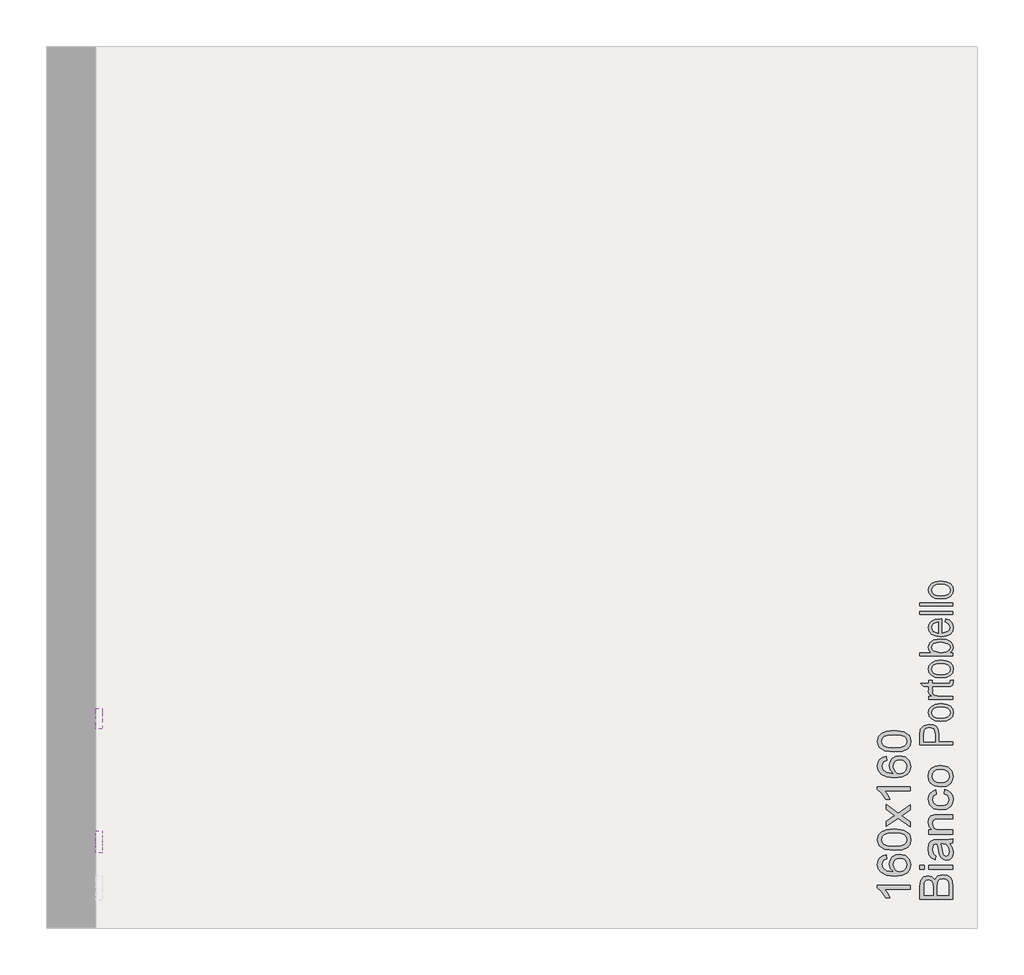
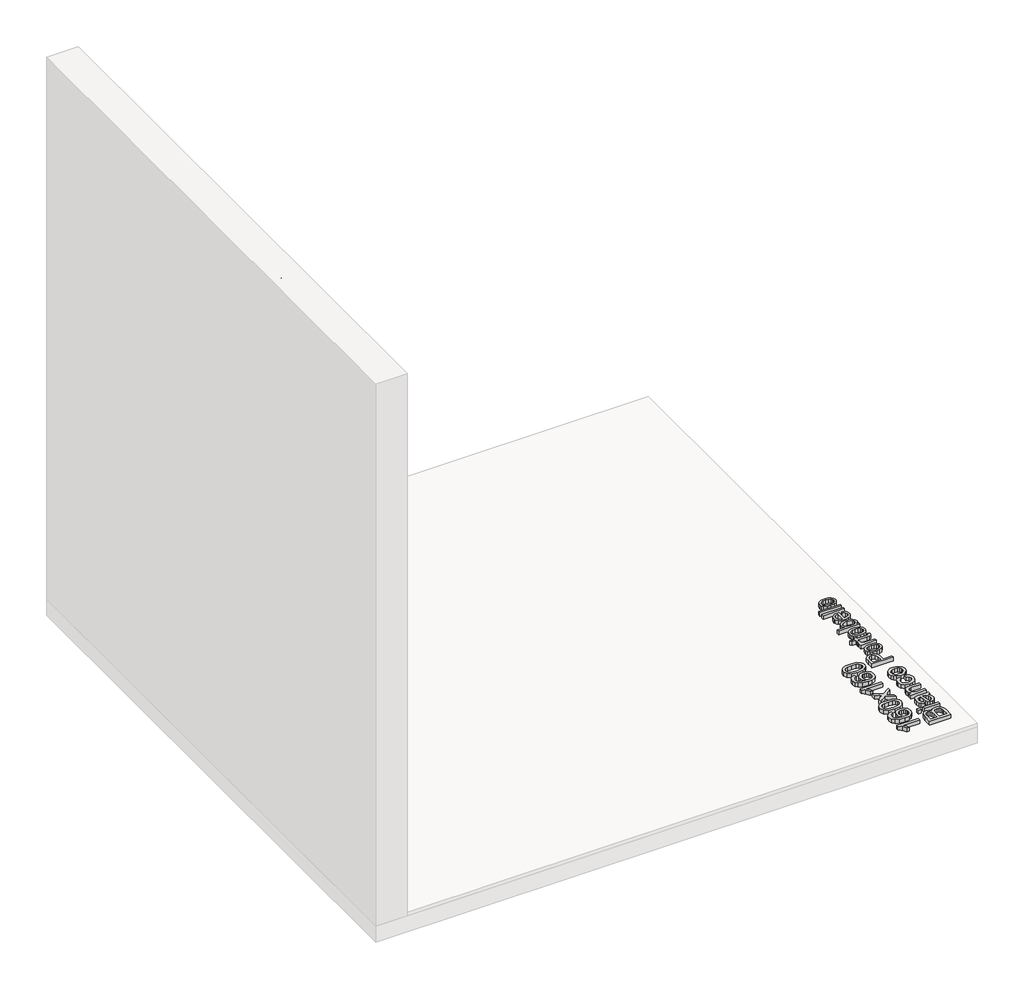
# One storey, part 11 of 14: 5 proxies.
"""IFC4 building model written with IfcOpenShell, lengths in millimetres."""

from ifc_helpers import new_model, si_unit, frame, origin, origin_with_axes, place, context, project, spatial, polyline, outline, extrude, element, save

model = new_model("IFC4")

# Units and contexts
model_context = context("Model", 3, world=origin())
ifc_project = project(units=[si_unit("LENGTHUNIT", "METRE", prefix="MILLI")], contexts=[model_context])

# Site, building, storey
site = spatial("IfcSite", under=ifc_project)
building = spatial("IfcBuilding", under=site)
storey = spatial("IfcBuildingStorey", under=building, Name="PORTOBELLO - SHOWROOM", Elevation=0.0)

# Proxies
placement = place(None, origin())
element("IfcBuildingElementProxy", 1, Name="10mm Arial", ObjectType="10mm Arial", at=placement, inside=storey, context=model_context, shape_type="SweptSolid", body=[
    extrude(outline(polyline([(-10553.2336751, 22623.880666), (-10653.6899853, 22623.880666), (-10653.6899853, 22662.2139699), (-10650.7346666, 22680.9882144), (-10641.6479813, 22692.0737252), (-10628.7966369, 22696.0836389), (-10617.0612013, 22692.7113873), (-10608.1707198, 22682.521056), (-10598.8019916, 22694.8941538), (-10583.1792695, 22699.2228986), (-10569.6780003, 22696.2675799), (-10560.0640175, 22688.9467282), (-10554.9627205, 22678.0206329), (-10553.2336751, 22661.9196643), (-10553.2336751, 22623.880666)]), holes=[polyline([(-10612.8796093, 22636.4377048), (-10612.8796093, 22659.3690158), (-10613.9587298, 22672.7599204), (-10618.6063057, 22680.8165361), (-10626.7855487, 22683.5266001), (-10634.9770545, 22681.0004771), (-10639.8208341, 22673.7654645), (-10641.1329465, 22657.6277077), (-10641.1329465, 22636.4377048), (-10612.8796093, 22636.4377048)]), polyline([(-10565.7907139, 22636.4377048), (-10565.7907139, 22662.1894444), (-10566.2812232, 22671.5091216), (-10569.0158127, 22679.3940591), (-10574.5953563, 22684.6179834), (-10583.0566422, 22686.6658598), (-10592.8177778, 22684.2623641), (-10598.6425761, 22676.4755286), (-10600.3225705, 22660.9631711), (-10600.3225705, 22636.4377048), (-10565.7907139, 22636.4377048)])]), origin_with_axes(), (0.0, 0.0, 1.0), 20.0),
    extrude(outline(polyline([(-10641.1329465, 22714.9191971), (-10653.6899853, 22714.9191971), (-10653.6899853, 22727.4762358), (-10641.1329465, 22727.4762358), (-10641.1329465, 22714.9191971)])), origin_with_axes(), (0.0, 0.0, 1.0), 20.0),
    extrude(outline(polyline([(-10553.2336751, 22714.9191971), (-10627.0062779, 22714.9191971), (-10627.0062779, 22727.4762358), (-10553.2336751, 22727.4762358), (-10553.2336751, 22714.9191971)])), origin_with_axes(), (0.0, 0.0, 1.0), 20.0),
    extrude(outline(polyline([(-10562.6514542, 22793.4006894), (-10554.1411174, 22781.2237953), (-10551.6640453, 22767.771577), (-10553.1539674, 22757.2777431), (-10557.6237336, 22749.5368928), (-10564.4111564, 22744.7636239), (-10572.8540482, 22743.1725343), (-10582.7868621, 22745.57603), (-10589.9973492, 22751.8913376), (-10594.1176275, 22760.6837173), (-10596.0060884, 22771.5484989), (-10600.3225705, 22793.327113), (-10603.1184737, 22793.4006894), (-10612.3891, 22789.9425986), (-10616.018869, 22776.0611847), (-10613.6031105, 22763.3569931), (-10605.0314601, 22757.2992029), (-10606.6010899, 22744.7421641), (-10618.8638231, 22750.1745549), (-10626.0497847, 22761.1129129), (-10628.5759078, 22777.6798654), (-10626.3440903, 22792.8979173), (-10620.7400213, 22801.4940933), (-10612.2174217, 22805.3445915), (-10601.2300128, 22805.9577281), (-10585.6072907, 22805.9577281), (-10563.7918884, 22806.5953903), (-10553.2336751, 22809.0969878), (-10553.2336751, 22796.5399491), (-10562.6514542, 22793.4006894)]), holes=[polyline([(-10587.7655318, 22793.4006894), (-10583.9150335, 22773.1426542), (-10581.8794198, 22762.3391862), (-10578.5684819, 22757.4463557), (-10573.736965, 22755.7295731), (-10566.9434108, 22759.4697067), (-10564.2210841, 22770.4448529), (-10567.2254537, 22783.1490444), (-10574.4972545, 22791.3405502), (-10584.2093391, 22793.327113), (-10587.7655318, 22793.4006894)])]), origin_with_axes(), (0.0, 0.0, 1.0), 20.0),
    extrude(outline(polyline([(-10553.2336751, 22823.2236564), (-10627.0062779, 22823.2236564), (-10627.0062779, 22835.7806952), (-10616.705582, 22835.7806952), (-10625.6083263, 22845.3824153), (-10628.5759078, 22858.491277), (-10626.1846748, 22870.34934), (-10619.9061554, 22878.4427439), (-10610.6723173, 22882.207403), (-10598.5322115, 22882.8695906), (-10553.2336751, 22882.8695906), (-10553.2336751, 22870.3125518), (-10596.8399543, 22870.3125518), (-10607.9499906, 22868.8655493), (-10613.8238397, 22863.7519896), (-10616.018869, 22855.1312882), (-10611.0892502, 22841.5073916), (-10603.9462082, 22837.2123693), (-10592.3763194, 22835.7806952), (-10553.2336751, 22835.7806952), (-10553.2336751, 22823.2236564)])), origin_with_axes(), (0.0, 0.0, 1.0), 20.0),
    extrude(outline(polyline([(-10579.9173825, 22947.2244143), (-10578.3477527, 22959.7814531), (-10567.1794684, 22956.2804427), (-10558.7396423, 22949.7014864), (-10553.4329446, 22940.663852), (-10551.6640453, 22929.7868077), (-10554.1319203, 22916.4296256), (-10561.5355455, 22905.9848426), (-10573.5499583, 22899.2434051), (-10589.8501964, 22896.9962592), (-10610.7091055, 22900.8344947), (-10624.1122729, 22912.5331421), (-10628.5759078, 22929.6151294), (-10627.0430661, 22940.2254593), (-10622.4445412, 22948.708205), (-10615.0255876, 22954.7935863), (-10605.0314601, 22958.2118232), (-10603.4618302, 22945.6547844), (-10612.8673466, 22939.8299862), (-10616.018869, 22929.7132313), (-10614.4676332, 22921.5983676), (-10609.813926, 22915.157367), (-10601.8063612, 22910.9543152), (-10590.1935529, 22909.553298), (-10578.4243948, 22910.9236584), (-10570.3892388, 22915.0347397), (-10565.7631228, 22921.3592443), (-10564.2210841, 22929.3698748), (-10568.0715823, 22941.2034123), (-10579.9173825, 22947.2244143)])), origin_with_axes(), (0.0, 0.0, 1.0), 20.0),
    extrude(outline(polyline([(-10590.1199765, 22967.6296023), (-10607.907071, 22970.3457977), (-10620.4089275, 22978.4943839), (-10626.5341627, 22988.5620878), (-10628.5759078, 23000.6163545), (-10626.0896386, 23013.8079897), (-10618.6308311, 23024.3447432), (-10606.7880966, 23031.2517277), (-10591.1500461, 23033.5540558), (-10568.8073463, 23029.4828284), (-10556.1644684, 23017.6247654), (-10551.6640453, 23000.6163545), (-10554.1411174, 22987.2653038), (-10561.5723337, 22976.740813), (-10573.6633886, 22969.907405), (-10590.1199765, 22967.6296023)]), holes=[polyline([(-10590.144502, 22980.1866411), (-10578.780014, 22981.6397749), (-10570.6835444, 22985.9991766), (-10565.8366992, 22992.5597388), (-10564.2210841, 23000.6163545), (-10565.8458962, 23008.636182), (-10570.7203326, 23015.1844815), (-10578.9241011, 23019.5438832), (-10590.5369095, 23020.9970171), (-10601.5703036, 23019.5346861), (-10609.5564086, 23015.1476933), (-10614.4032539, 23008.5901968), (-10616.018869, 23000.6163545), (-10614.4093853, 22992.5597388), (-10609.5809341, 22985.9991766), (-10601.5028586, 22981.6397749), (-10590.144502, 22980.1866411)])]), origin_with_axes(), (0.0, 0.0, 1.0), 20.0),
])
element("IfcBuildingElementProxy", 2, Name="10mm Arial", ObjectType="10mm Arial", at=placement, inside=storey, context=model_context, shape_type="SweptSolid", body=[
    extrude(outline(polyline([(-10683.2336751, 22666.2606718), (-10683.2336751, 22653.7036331), (-10761.5189637, 22653.7036331), (-10753.0454151, 22641.8087819), (-10746.705582, 22628.5895555), (-10758.5759078, 22628.5895555), (-10770.3236061, 22646.995918), (-10783.6899853, 22658.1672679), (-10783.6899853, 22666.2606718), (-10683.2336751, 22666.2606718)])), origin_with_axes(), (0.0, 0.0, 1.0), 20.0),
    extrude(outline(polyline([(-10757.0062779, 22760.4384626), (-10755.4366481, 22747.8814238), (-10765.9090222, 22743.1234834), (-10771.1329465, 22730.5419191), (-10768.0917887, 22719.2111537), (-10756.6751841, 22710.6395032), (-10734.2956961, 22707.0710478), (-10744.3143491, 22718.1442959), (-10747.5884988, 22731.8662943), (-10745.35055, 22743.4668399), (-10738.6367036, 22753.20345), (-10728.3789273, 22759.8069318), (-10715.5091888, 22762.0080924), (-10698.1819469, 22757.8632886), (-10685.9192137, 22746.4589468), (-10681.6640453, 22730.0023589), (-10684.4844739, 22715.7561286), (-10692.9457598, 22704.4100347), (-10707.8817688, 22696.9880155), (-10730.1263668, 22694.5140091), (-10755.1362111, 22697.2608613), (-10772.2365925, 22705.501418), (-10780.8266371, 22716.7524757), (-10783.6899853, 22731.326734), (-10781.9180203, 22742.3447998), (-10776.6021255, 22751.1678363), (-10768.1592337, 22757.3482538), (-10757.0062779, 22760.4384626)]), holes=[polyline([(-10715.7053926, 22707.0710478), (-10704.8283483, 22709.9773156), (-10696.9311481, 22717.7028375), (-10694.2210841, 22729.0213402), (-10695.625167, 22737.3078822), (-10699.8374159, 22743.8224592), (-10706.4592918, 22748.043905), (-10715.0922559, 22749.4510537), (-10723.3787979, 22748.0622991), (-10729.6971711, 22743.8960356), (-10733.6978878, 22737.271094), (-10735.0314601, 22728.5063054), (-10729.6971711, 22713.312779), (-10723.532082, 22708.6314806), (-10715.7053926, 22707.0710478)])]), origin_with_axes(), (0.0, 0.0, 1.0), 20.0),
    extrude(outline(polyline([(-10732.6524898, 22772.9955014), (-10761.5557519, 22776.6865841), (-10778.2208063, 22787.6494675), (-10783.6899853, 22805.9577281), (-10780.4526237, 22820.623957), (-10771.1206838, 22830.7529746), (-10756.2582512, 22836.6390865), (-10732.6524898, 22838.9199549), (-10703.8718551, 22835.2656604), (-10687.1700125, 22824.3395652), (-10683.0405371, 22816.1082055), (-10681.6640453, 22805.9577281), (-10684.0552783, 22792.91018), (-10691.2289772, 22783.0018916), (-10708.218994, 22775.4970989), (-10732.6524898, 22772.9955014)]), holes=[polyline([(-10732.6770153, 22785.5525401), (-10712.9248178, 22787.0240681), (-10701.4928848, 22791.4386521), (-10696.0390343, 22798.011477), (-10694.2210841, 22805.9577281), (-10696.0451656, 22813.9039792), (-10701.5174103, 22820.4768042), (-10712.9554747, 22824.8913882), (-10732.6770153, 22826.3629161), (-10751.9846887, 22824.9404391), (-10763.5055265, 22820.6730079), (-10769.2260915, 22814.1124457), (-10771.1329465, 22805.8105753), (-10769.4529521, 22797.9501634), (-10764.4129687, 22791.6348558), (-10752.174761, 22787.0731191), (-10732.6770153, 22785.5525401)])]), origin_with_axes(), (0.0, 0.0, 1.0), 20.0),
    extrude(outline(polyline([(-10683.2336751, 22845.1984743), (-10720.3407057, 22872.0293345), (-10757.0062779, 22846.7681041), (-10757.0062779, 22861.8267405), (-10739.3234167, 22874.0158972), (-10731.0092836, 22879.7303309), (-10737.8273632, 22884.6844751), (-10757.0062779, 22898.5658891), (-10757.0062779, 22913.6735763), (-10720.3161803, 22887.1370217), (-10683.2336751, 22912.6925577), (-10683.2336751, 22897.6093959), (-10705.5518495, 22882.207403), (-10709.6476024, 22879.4114998), (-10683.2336751, 22860.3061616), (-10683.2336751, 22845.1984743)])), origin_with_axes(), (0.0, 0.0, 1.0), 20.0),
    extrude(outline(polyline([(-10683.2336751, 22967.6296023), (-10683.2336751, 22955.0725635), (-10761.5189637, 22955.0725635), (-10753.0454151, 22943.1777123), (-10746.705582, 22929.958486), (-10758.5759078, 22929.958486), (-10770.3236061, 22948.3648485), (-10783.6899853, 22959.5361984), (-10783.6899853, 22967.6296023), (-10683.2336751, 22967.6296023)])), origin_with_axes(), (0.0, 0.0, 1.0), 20.0),
    extrude(outline(polyline([(-10757.0062779, 23061.807393), (-10755.4366481, 23049.2503543), (-10765.9090222, 23044.4924138), (-10771.1329465, 23031.9108496), (-10768.0917887, 23020.5800841), (-10756.6751841, 23012.0084336), (-10734.2956961, 23008.4399783), (-10744.3143491, 23019.5132263), (-10747.5884988, 23033.2352248), (-10745.35055, 23044.8357703), (-10738.6367036, 23054.5723805), (-10728.3789273, 23061.1758623), (-10715.5091888, 23063.3770229), (-10698.1819469, 23059.2322191), (-10685.9192137, 23047.8278772), (-10681.6640453, 23031.3712893), (-10684.4844739, 23017.1250591), (-10692.9457598, 23005.7789652), (-10707.8817688, 22998.3569459), (-10730.1263668, 22995.8829395), (-10755.1362111, 22998.6297917), (-10772.2365925, 23006.8703484), (-10780.8266371, 23018.1214061), (-10783.6899853, 23032.6956645), (-10781.9180203, 23043.7137303), (-10776.6021255, 23052.5367668), (-10768.1592337, 23058.7171843), (-10757.0062779, 23061.807393)]), holes=[polyline([(-10715.7053926, 23008.4399783), (-10704.8283483, 23011.346246), (-10696.9311481, 23019.0717679), (-10694.2210841, 23030.3902707), (-10695.625167, 23038.6768126), (-10699.8374159, 23045.1913896), (-10706.4592918, 23049.4128355), (-10715.0922559, 23050.8199841), (-10723.3787979, 23049.4312296), (-10729.6971711, 23045.264966), (-10733.6978878, 23038.6400244), (-10735.0314601, 23029.8752359), (-10729.6971711, 23014.6817095), (-10723.532082, 23010.0004111), (-10715.7053926, 23008.4399783)])]), origin_with_axes(), (0.0, 0.0, 1.0), 20.0),
    extrude(outline(polyline([(-10732.6524898, 23074.3644318), (-10761.5557519, 23078.0555145), (-10778.2208063, 23089.018398), (-10783.6899853, 23107.3266586), (-10780.4526237, 23121.9928875), (-10771.1206838, 23132.1219051), (-10756.2582512, 23138.008017), (-10732.6524898, 23140.2888854), (-10703.8718551, 23136.6345909), (-10687.1700125, 23125.7084956), (-10683.0405371, 23117.477136), (-10681.6640453, 23107.3266586), (-10684.0552783, 23094.2791105), (-10691.2289772, 23084.3708221), (-10708.218994, 23076.8660294), (-10732.6524898, 23074.3644318)]), holes=[polyline([(-10732.6770153, 23086.9214706), (-10712.9248178, 23088.3929986), (-10701.4928848, 23092.8075825), (-10696.0390343, 23099.3804075), (-10694.2210841, 23107.3266586), (-10696.0451656, 23115.2729097), (-10701.5174103, 23121.8457347), (-10712.9554747, 23126.2603186), (-10732.6770153, 23127.7318466), (-10751.9846887, 23126.3093695), (-10763.5055265, 23122.0419384), (-10769.2260915, 23115.4813761), (-10771.1329465, 23107.1795058), (-10769.4529521, 23099.3190938), (-10764.4129687, 23093.0037862), (-10752.174761, 23088.4420495), (-10732.6770153, 23086.9214706)])]), origin_with_axes(), (0.0, 0.0, 1.0), 20.0),
])
element("IfcBuildingElementProxy", 3, Name="10mm Arial", ObjectType="10mm Arial", at=placement, inside=storey, context=model_context, shape_type="SweptSolid", body=[
    extrude(outline(polyline([(22680.1695981, 2464.9621931), (22667.6125593, 2463.3925633), (22662.8546188, 2473.8649374), (22650.2730546, 2479.0888617), (22638.9422891, 2476.0477039), (22630.3706386, 2464.6310993), (22626.8021833, 2442.2516113), (22637.8754313, 2452.2702643), (22651.5974298, 2455.544414), (22663.1979753, 2453.3064652), (22672.9345855, 2446.5926188), (22679.5380673, 2436.3348425), (22681.7392279, 2423.4651041), (22677.5944241, 2406.1378621), (22666.1900822, 2393.8751289), (22649.7334943, 2389.6199605), (22635.4872641, 2392.4403891), (22624.1411702, 2400.901675), (22616.7191509, 2415.837684), (22614.2451445, 2438.082282), (22616.9919968, 2463.0921263), (22625.2325534, 2480.1925077), (22636.4836111, 2488.7825523), (22651.0578695, 2491.6459005), (22662.0759353, 2489.8739355), (22670.8989718, 2484.5580407), (22677.0793893, 2476.1151489), (22680.1695981, 2464.9621931)]), holes=[polyline([(22626.8021833, 2423.6613078), (22629.7084511, 2412.7842635), (22637.433973, 2404.8870633), (22648.7524757, 2402.1769993), (22657.0390176, 2403.5810822), (22663.5535946, 2407.7933311), (22667.7750405, 2414.415207), (22669.1821891, 2423.0481711), (22667.7934346, 2431.3347131), (22663.627171, 2437.6530863), (22657.0022294, 2441.653803), (22648.2374409, 2442.9873753), (22633.0439145, 2437.6530863), (22628.3626161, 2431.4879972), (22626.8021833, 2423.6613078)])]), frame((-13177.661959, 0.0, 0.0), z_axis=(1.0, 0.0, 0.0), x_axis=(0.0, 1.0, 0.0)), (0.0, 0.0, 1.0), 20.0),
    extrude(outline(polyline([(22692.7266368, 2440.608405), (22696.4177195, 2469.5116671), (22707.380603, 2486.1767215), (22725.6888636, 2491.6459005), (22740.3550925, 2488.4085389), (22750.4841101, 2479.076599), (22756.370222, 2464.2141664), (22758.6510904, 2440.608405), (22754.9967959, 2411.8277703), (22744.0707006, 2395.1259277), (22735.839341, 2390.9964523), (22725.6888636, 2389.6199605), (22712.6413155, 2392.0111935), (22702.7330271, 2399.1848924), (22695.2282344, 2416.1749092), (22692.7266368, 2440.608405)]), holes=[polyline([(22705.2836756, 2440.6329305), (22706.7552036, 2420.880733), (22711.1697875, 2409.4488), (22717.7426125, 2403.9949495), (22725.6888636, 2402.1769993), (22733.6351147, 2404.0010808), (22740.2079397, 2409.4733255), (22744.6225236, 2420.9113899), (22746.0940516, 2440.6329305), (22744.6715745, 2459.9406039), (22740.4041434, 2471.4614417), (22733.8435812, 2477.1820067), (22725.5417108, 2479.0888617), (22717.6812988, 2477.4088673), (22711.3659912, 2472.3688839), (22706.8042545, 2460.1306762), (22705.2836756, 2440.6329305)])]), frame((-13177.661959, 0.0, 0.0), z_axis=(1.0, 0.0, 0.0), x_axis=(0.0, 1.0, 0.0)), (0.0, 0.0, 1.0), 20.0),
    extrude(outline(polyline([(22764.9296097, 2391.1895903), (22791.7604699, 2428.2966209), (22766.4992396, 2464.9621931), (22781.5578759, 2464.9621931), (22793.7470327, 2447.2793319), (22799.4614664, 2438.9651988), (22804.4156106, 2445.7832784), (22818.2970245, 2464.9621931), (22833.4047118, 2464.9621931), (22806.8681572, 2428.2720955), (22832.4236931, 2391.1895903), (22817.3405313, 2391.1895903), (22801.9385385, 2413.5077647), (22799.1426353, 2417.6035176), (22780.037297, 2391.1895903), (22764.9296097, 2391.1895903)])), frame((-13177.661959, 0.0, 0.0), z_axis=(1.0, 0.0, 0.0), x_axis=(0.0, 1.0, 0.0)), (0.0, 0.0, 1.0), 20.0),
    extrude(outline(polyline([(22904.626666, 2464.9621931), (22892.0696273, 2463.3925633), (22887.3116868, 2473.8649374), (22874.7301226, 2479.0888617), (22863.3993571, 2476.0477039), (22854.8277066, 2464.6310993), (22851.2592513, 2442.2516113), (22862.3324993, 2452.2702643), (22876.0544978, 2455.544414), (22887.6550433, 2453.3064652), (22897.3916535, 2446.5926188), (22903.9951353, 2436.3348425), (22906.1962959, 2423.4651041), (22902.0514921, 2406.1378621), (22890.6471502, 2393.8751289), (22874.1905623, 2389.6199605), (22859.944332, 2392.4403891), (22848.5982382, 2400.901675), (22841.1762189, 2415.837684), (22838.7022125, 2438.082282), (22841.4490647, 2463.0921263), (22849.6896214, 2480.1925077), (22860.9406791, 2488.7825523), (22875.5149375, 2491.6459005), (22886.5330033, 2489.8739355), (22895.3560398, 2484.5580407), (22901.5364573, 2476.1151489), (22904.626666, 2464.9621931)]), holes=[polyline([(22851.2592513, 2423.6613078), (22854.165519, 2412.7842635), (22861.8910409, 2404.8870633), (22873.2095437, 2402.1769993), (22881.4960856, 2403.5810822), (22888.0106626, 2407.7933311), (22892.2321085, 2414.415207), (22893.6392571, 2423.0481711), (22892.2505026, 2431.3347131), (22888.084239, 2437.6530863), (22881.4592974, 2441.653803), (22872.6945089, 2442.9873753), (22857.5009825, 2437.6530863), (22852.8196841, 2431.4879972), (22851.2592513, 2423.6613078)])]), frame((-13177.661959, 0.0, 0.0), z_axis=(1.0, 0.0, 0.0), x_axis=(0.0, 1.0, 0.0)), (0.0, 0.0, 1.0), 20.0),
    extrude(outline(polyline([(22917.1837048, 2440.608405), (22920.8747875, 2469.5116671), (22931.837671, 2486.1767215), (22950.1459316, 2491.6459005), (22964.8121605, 2488.4085389), (22974.9411781, 2479.076599), (22980.82729, 2464.2141664), (22983.1081584, 2440.608405), (22979.4538639, 2411.8277703), (22968.5277686, 2395.1259277), (22960.296409, 2390.9964523), (22950.1459316, 2389.6199605), (22937.0983835, 2392.0111935), (22927.1900951, 2399.1848924), (22919.6853024, 2416.1749092), (22917.1837048, 2440.608405)]), holes=[polyline([(22929.7407436, 2440.6329305), (22931.2122716, 2420.880733), (22935.6268555, 2409.4488), (22942.1996805, 2403.9949495), (22950.1459316, 2402.1769993), (22958.0921827, 2404.0010808), (22964.6650077, 2409.4733255), (22969.0795916, 2420.9113899), (22970.5511196, 2440.6329305), (22969.1286425, 2459.9406039), (22964.8612114, 2471.4614417), (22958.3006491, 2477.1820067), (22949.9987788, 2479.0888617), (22942.1383668, 2477.4088673), (22935.8230592, 2472.3688839), (22931.2613225, 2460.1306762), (22929.7407436, 2440.6329305)])]), frame((-13177.661959, 0.0, 0.0), z_axis=(1.0, 0.0, 0.0), x_axis=(0.0, 1.0, 0.0)), (0.0, 0.0, 1.0), 20.0),
])
element("IfcBuildingElementProxy", 4, Name="10mm Arial Narrow", ObjectType="10mm Arial Narrow", at=placement, inside=storey, context=model_context, shape_type="SweptSolid", body=[
    extrude(outline(polyline([(-10553.2336751, 23096.1945656), (-10653.9522789, 23096.1945656), (-10653.9522789, 23127.4914503), (-10652.0739582, 23143.7871518), (-10642.593515, 23155.2601379), (-10625.5744062, 23159.5498164), (-10613.4985806, 23157.763508), (-10603.8721869, 23152.4045828), (-10597.5709284, 23142.6607939), (-10595.470509, 23127.7198947), (-10595.470509, 23105.9415273), (-10553.2336751, 23105.9415273), (-10553.2336751, 23096.1945656)]), holes=[polyline([(-10606.8419642, 23105.9415273), (-10606.8419642, 23128.9128822), (-10611.3727784, 23144.7770776), (-10625.0413692, 23149.8028547), (-10635.2071456, 23147.3280402), (-10641.0070954, 23141.3504114), (-10642.5808236, 23128.6844378), (-10642.5808236, 23105.9415273), (-10606.8419642, 23105.9415273)])]), origin_with_axes(), (0.0, 0.0, 1.0), 20.0),
    extrude(outline(polyline([(-10589.7847813, 23167.6722844), (-10606.3755569, 23169.6267533), (-10618.3276417, 23175.4901599), (-10625.5521963, 23184.3487266), (-10627.9603811, 23195.2886758), (-10625.5521963, 23206.1017113), (-10618.3276417, 23214.9856608), (-10606.5659272, 23220.9252155), (-10590.5462627, 23222.9050671), (-10573.3843761, 23220.9601168), (-10561.241921, 23215.1252657), (-10554.0173664, 23206.2762175), (-10551.6091815, 23195.2886758), (-10554.0237121, 23184.4280476), (-10561.2673037, 23175.5536167), (-10573.2257342, 23169.6426175), (-10589.7847813, 23167.6722844)]), holes=[polyline([(-10589.8101641, 23177.4192461), (-10577.2584127, 23178.7232829), (-10568.3871546, 23182.6353935), (-10563.113896, 23188.4765903), (-10561.3561432, 23195.5678856), (-10563.1297602, 23202.2879588), (-10568.4506114, 23207.9800321), (-10577.3377336, 23211.8635871), (-10589.8101641, 23213.1581055), (-10602.3238414, 23211.8540686), (-10611.1824081, 23207.941958), (-10616.4556666, 23202.1007613), (-10618.2134195, 23195.0094659), (-10616.4461481, 23188.2418002), (-10611.144334, 23182.5592454), (-10602.2762488, 23178.7042459), (-10589.8101641, 23177.4192461)])]), origin_with_axes(), (0.0, 0.0, 1.0), 20.0),
    extrude(outline(polyline([(-10561.3561432, 23294.3827859), (-10551.6091815, 23296.0072795), (-10551.6091815, 23288.6462929), (-10553.728638, 23280.3715285), (-10559.5285879, 23276.0564674), (-10574.1744131, 23274.8888626), (-10616.5889259, 23274.8888626), (-10616.5889259, 23266.7663946), (-10619.8379131, 23266.7663946), (-10614.9644323, 23265.1419009), (-10616.5889259, 23257.5778526), (-10614.2664077, 23251.4986929), (-10607.7811246, 23247.6278292), (-10592.373818, 23245.6479776), (-10553.2336751, 23245.6479776), (-10553.2336751, 23235.901016), (-10626.3358875, 23235.901016), (-10626.3358875, 23245.6479776), (-10616.6396913, 23245.6479776), (-10625.7267024, 23251.8921249), (-10627.9603811, 23258.2885685), (-10626.3358875, 23266.7663946), (-10626.3358875, 23274.8888626), (-10642.5808236, 23274.8888626), (-10650.7032917, 23284.6358243), (-10626.3358875, 23284.6358243), (-10626.3358875, 23294.3827859), (-10616.5889259, 23294.3827859), (-10616.5889259, 23284.6358243), (-10571.9407344, 23284.6358243), (-10563.9451799, 23285.4988365), (-10561.3561432, 23290.1184902), (-10561.3561432, 23294.3827859)])), origin_with_axes(), (0.0, 0.0, 1.0), 20.0),
    extrude(outline(polyline([(-10589.7847813, 23300.8807603), (-10606.3755569, 23302.8352292), (-10618.3276417, 23308.6986358), (-10625.5521963, 23317.5572025), (-10627.9603811, 23328.4971517), (-10625.5521963, 23339.3101873), (-10618.3276417, 23348.1941367), (-10606.5659272, 23354.1336915), (-10590.5462627, 23356.113543), (-10573.3843761, 23354.1685927), (-10561.241921, 23348.3337416), (-10554.0173664, 23339.4846934), (-10551.6091815, 23328.4971517), (-10554.0237121, 23317.6365235), (-10561.2673037, 23308.7620926), (-10573.2257342, 23302.8510934), (-10589.7847813, 23300.8807603)]), holes=[polyline([(-10589.8101641, 23310.627722), (-10577.2584127, 23311.9317589), (-10568.3871546, 23315.8438694), (-10563.113896, 23321.6850662), (-10561.3561432, 23328.7763615), (-10563.1297602, 23335.4964347), (-10568.4506114, 23341.188508), (-10577.3377336, 23345.072063), (-10589.8101641, 23346.3665814), (-10602.3238414, 23345.0625445), (-10611.1824081, 23341.1504339), (-10616.4556666, 23335.3092372), (-10618.2134195, 23328.2179419), (-10616.4461481, 23321.4502761), (-10611.144334, 23315.7677213), (-10602.2762488, 23311.9127218), (-10589.8101641, 23310.627722)])]), origin_with_axes(), (0.0, 0.0, 1.0), 20.0),
    extrude(outline(polyline([(-10553.2336751, 23378.8564536), (-10553.2336751, 23369.1094919), (-10653.9522789, 23369.1094919), (-10653.9522789, 23378.8564536), (-10618.5433948, 23378.8564536), (-10625.6251716, 23386.2555143), (-10627.9603811, 23395.4567476), (-10623.7595422, 23408.3384743), (-10611.0301118, 23417.6158558), (-10590.343201, 23421.0932874), (-10573.8888575, 23419.1610284), (-10561.6861184, 23413.3642514), (-10554.1284158, 23404.9911291), (-10551.6091815, 23395.3298341), (-10554.2236009, 23385.9889958), (-10561.990711, 23378.8564536), (-10553.2336751, 23378.8564536)]), holes=[polyline([(-10590.343201, 23378.8564536), (-10573.0956478, 23380.937836), (-10564.3639946, 23386.8266253), (-10561.3561432, 23395.2790686), (-10563.1456244, 23401.2217962), (-10568.5140681, 23406.4601536), (-10589.9370776, 23411.3463257), (-10611.3727784, 23406.6378326), (-10616.5032592, 23401.3931296), (-10618.2134195, 23395.0760069), (-10616.4239383, 23389.0983781), (-10611.0554945, 23383.8060825), (-10590.343201, 23378.8564536)])]), origin_with_axes(), (0.0, 0.0, 1.0), 20.0),
    extrude(outline(polyline([(-10575.9765857, 23473.0770829), (-10574.3520921, 23482.8240445), (-10564.4655255, 23479.1245142), (-10557.3456746, 23473.3055273), (-10553.0433048, 23465.601874), (-10551.6091815, 23456.2483444), (-10554.0237121, 23444.6547904), (-10561.2673037, 23435.5106682), (-10573.0734379, 23429.5711134), (-10589.1755962, 23427.5912618), (-10605.8425199, 23429.5806319), (-10618.0230492, 23435.5487423), (-10625.4760481, 23444.5627781), (-10627.9603811, 23455.6899247), (-10625.5617148, 23466.3728739), (-10618.3657158, 23475.1203913), (-10606.6262112, 23480.9552423), (-10590.5970281, 23482.9001927), (-10587.3480409, 23482.8240445), (-10587.3480409, 23437.3382235), (-10567.904883, 23443.341235), (-10562.9933281, 23449.2712713), (-10561.3561432, 23456.375258), (-10565.0112538, 23466.5537257), (-10575.9765857, 23473.0770829)]), holes=[polyline([(-10597.0950026, 23437.998174), (-10597.0950026, 23473.0770829), (-10611.3600871, 23468.8127872), (-10616.5000864, 23462.9874546), (-10618.2134195, 23455.7660729), (-10612.5023092, 23443.5569881), (-10597.0950026, 23437.998174)])]), origin_with_axes(), (0.0, 0.0, 1.0), 20.0),
    extrude(outline(polyline([(-10553.2336751, 23495.8199934), (-10653.9522789, 23495.8199934), (-10653.9522789, 23505.5669551), (-10553.2336751, 23505.5669551), (-10553.2336751, 23495.8199934)])), origin_with_axes(), (0.0, 0.0, 1.0), 20.0),
    extrude(outline(polyline([(-10553.2336751, 23521.8118912), (-10653.9522789, 23521.8118912), (-10653.9522789, 23531.5588528), (-10553.2336751, 23531.5588528), (-10553.2336751, 23521.8118912)])), origin_with_axes(), (0.0, 0.0, 1.0), 20.0),
    extrude(outline(polyline([(-10589.7847813, 23542.9303081), (-10606.3755569, 23544.8847769), (-10618.3276417, 23550.7481836), (-10625.5521963, 23559.6067503), (-10627.9603811, 23570.5466994), (-10625.5521963, 23581.359735), (-10618.3276417, 23590.2436844), (-10606.5659272, 23596.1832392), (-10590.5462627, 23598.1630908), (-10573.3843761, 23596.2181404), (-10561.241921, 23590.3832894), (-10554.0173664, 23581.5342412), (-10551.6091815, 23570.5466994), (-10554.0237121, 23559.6860713), (-10561.2673037, 23550.8116403), (-10573.2257342, 23544.9006411), (-10589.7847813, 23542.9303081)]), holes=[polyline([(-10589.8101641, 23552.6772697), (-10577.2584127, 23553.9813066), (-10568.3871546, 23557.8934172), (-10563.113896, 23563.7346139), (-10561.3561432, 23570.8259093), (-10563.1297602, 23577.5459824), (-10568.4506114, 23583.2380557), (-10577.3377336, 23587.1216108), (-10589.8101641, 23588.4161291), (-10602.3238414, 23587.1120923), (-10611.1824081, 23583.1999817), (-10616.4556666, 23577.3587849), (-10618.2134195, 23570.2674896), (-10616.4461481, 23563.4998238), (-10611.144334, 23557.817269), (-10602.2762488, 23553.9622696), (-10589.8101641, 23552.6772697)])]), origin_with_axes(), (0.0, 0.0, 1.0), 20.0),
])
element("IfcBuildingElementProxy", 5, Name="10mm Arial Narrow", ObjectType="10mm Arial Narrow", at=placement, inside=storey, context=model_context, shape_type="SweptSolid", body=[
    extrude(outline(polyline([(23144.3094875, 2516.1895903), (23144.3094875, 2616.9081941), (23175.6063721, 2616.9081941), (23191.9020737, 2615.0298734), (23203.3750598, 2605.5494302), (23207.6647382, 2588.5303214), (23205.8784298, 2576.4544958), (23200.5195046, 2566.8281021), (23190.7757158, 2560.5268436), (23175.8348166, 2558.4264242), (23154.0564491, 2558.4264242), (23154.0564491, 2516.1895903), (23144.3094875, 2516.1895903)]), holes=[polyline([(23154.0564491, 2569.7978794), (23177.0278041, 2569.7978794), (23192.8919995, 2574.3286936), (23197.9177766, 2587.9972844), (23195.4429621, 2598.1630608), (23189.4653332, 2603.9630106), (23176.7993596, 2605.5367388), (23154.0564491, 2605.5367388), (23154.0564491, 2569.7978794)])]), frame((-13177.661959, 0.0, 0.0), z_axis=(1.0, 0.0, 0.0), x_axis=(0.0, 1.0, 0.0)), (0.0, 0.0, 1.0), 20.0),
    extrude(outline(polyline([(23215.7872063, 2552.7406965), (23217.7416751, 2569.3314721), (23223.6050817, 2581.2835569), (23232.4636485, 2588.5081115), (23243.4035976, 2590.9162964), (23254.2166332, 2588.5081115), (23263.1005826, 2581.2835569), (23269.0401374, 2569.5218424), (23271.019989, 2553.5021779), (23269.0750386, 2536.3402913), (23263.2401875, 2524.1978362), (23254.3911393, 2516.9732816), (23243.4035976, 2514.5650967), (23232.5429694, 2516.9796273), (23223.6685385, 2524.2232189), (23217.7575393, 2536.1816494), (23215.7872063, 2552.7406965)]), holes=[polyline([(23225.5341679, 2552.7660793), (23226.8382048, 2540.2143279), (23230.7503154, 2531.3430698), (23236.5915121, 2526.0698112), (23243.6828074, 2524.3120584), (23250.4028806, 2526.0856754), (23256.0949539, 2531.4065266), (23259.978509, 2540.2936488), (23261.2730273, 2552.7660793), (23259.9689904, 2565.2797566), (23256.0568799, 2574.1383233), (23250.2156831, 2579.4115818), (23243.1243878, 2581.1693347), (23236.356722, 2579.4020633), (23230.6741672, 2574.1002492), (23226.8191677, 2565.232164), (23225.5341679, 2552.7660793)])]), frame((-13177.661959, 0.0, 0.0), z_axis=(1.0, 0.0, 0.0), x_axis=(0.0, 1.0, 0.0)), (0.0, 0.0, 1.0), 20.0),
    extrude(outline(polyline([(23342.4977078, 2524.3120584), (23344.1222014, 2514.5650967), (23336.7612147, 2514.5650967), (23328.4864504, 2516.6845532), (23324.1713892, 2522.4845031), (23323.0037844, 2537.1303283), (23323.0037844, 2579.5448411), (23314.8813164, 2579.5448411), (23314.8813164, 2582.7938283), (23313.2568228, 2577.9203475), (23305.6927744, 2579.5448411), (23299.6136147, 2577.2223229), (23295.7427511, 2570.7370398), (23293.7628995, 2555.3297332), (23293.7628995, 2516.1895903), (23284.0159378, 2516.1895903), (23284.0159378, 2589.2918027), (23293.7628995, 2589.2918027), (23293.7628995, 2579.5956065), (23300.0070468, 2588.6826176), (23306.4034904, 2590.9162964), (23314.8813164, 2589.2918027), (23323.0037844, 2589.2918027), (23323.0037844, 2605.5367388), (23332.7507461, 2613.6592069), (23332.7507461, 2589.2918027), (23342.4977078, 2589.2918027), (23342.4977078, 2579.5448411), (23332.7507461, 2579.5448411), (23332.7507461, 2534.8966496), (23333.6137583, 2526.9010951), (23338.233412, 2524.3120584), (23342.4977078, 2524.3120584)])), frame((-13177.661959, 0.0, 0.0), z_axis=(1.0, 0.0, 0.0), x_axis=(0.0, 1.0, 0.0)), (0.0, 0.0, 1.0), 20.0),
    extrude(outline(polyline([(23348.9956822, 2552.7406965), (23350.9501511, 2569.3314721), (23356.8135577, 2581.2835569), (23365.6721244, 2588.5081115), (23376.6120735, 2590.9162964), (23387.4251091, 2588.5081115), (23396.3090585, 2581.2835569), (23402.2486133, 2569.5218424), (23404.2284649, 2553.5021779), (23402.2835145, 2536.3402913), (23396.4486635, 2524.1978362), (23387.5996153, 2516.9732816), (23376.6120735, 2514.5650967), (23365.7514454, 2516.9796273), (23356.8770145, 2524.2232189), (23350.9660153, 2536.1816494), (23348.9956822, 2552.7406965)]), holes=[polyline([(23358.7426438, 2552.7660793), (23360.0466807, 2540.2143279), (23363.9587913, 2531.3430698), (23369.799988, 2526.0698112), (23376.8912834, 2524.3120584), (23383.6113565, 2526.0856754), (23389.3034299, 2531.4065266), (23393.1869849, 2540.2936488), (23394.4815032, 2552.7660793), (23393.1774664, 2565.2797566), (23389.2653558, 2574.1383233), (23383.424159, 2579.4115818), (23376.3328637, 2581.1693347), (23369.5651979, 2579.4020633), (23363.8826432, 2574.1002492), (23360.0276437, 2565.232164), (23358.7426438, 2552.7660793)])]), frame((-13177.661959, 0.0, 0.0), z_axis=(1.0, 0.0, 0.0), x_axis=(0.0, 1.0, 0.0)), (0.0, 0.0, 1.0), 20.0),
    extrude(outline(polyline([(23426.9713754, 2516.1895903), (23417.2244138, 2516.1895903), (23417.2244138, 2616.9081941), (23426.9713754, 2616.9081941), (23426.9713754, 2581.49931), (23434.3704362, 2588.5810868), (23443.5716695, 2590.9162964), (23456.4533961, 2586.7154574), (23465.7307776, 2573.986027), (23469.2082092, 2553.2991162), (23467.2759502, 2536.8447728), (23461.4791732, 2524.6420337), (23453.1060509, 2517.084331), (23443.4447559, 2514.5650967), (23434.1039177, 2517.1795161), (23426.9713754, 2524.9466262), (23426.9713754, 2516.1895903)]), holes=[polyline([(23426.9713754, 2553.2991162), (23429.0527579, 2536.051563), (23434.9415472, 2527.3199098), (23443.3939905, 2524.3120584), (23449.3367181, 2526.1015396), (23454.5750754, 2531.4699834), (23459.4612476, 2552.8929928), (23454.7527544, 2574.3286936), (23449.5080514, 2579.4591744), (23443.1909288, 2581.1693347), (23437.2133, 2579.3798535), (23431.9210044, 2574.0114097), (23426.9713754, 2553.2991162)])]), frame((-13177.661959, 0.0, 0.0), z_axis=(1.0, 0.0, 0.0), x_axis=(0.0, 1.0, 0.0)), (0.0, 0.0, 1.0), 20.0),
    extrude(outline(polyline([(23521.1920047, 2538.9325009), (23530.9389664, 2537.3080073), (23527.239436, 2527.4214407), (23521.4204491, 2520.3015898), (23513.7167959, 2515.99922), (23504.3632663, 2514.5650967), (23492.7697123, 2516.9796273), (23483.62559, 2524.2232189), (23477.6860353, 2536.0293531), (23475.7061837, 2552.1315114), (23477.6955538, 2568.7984351), (23483.6636641, 2580.9789644), (23492.6776999, 2588.4319634), (23503.8048466, 2590.9162964), (23514.4877958, 2588.51763), (23523.2353131, 2581.321631), (23529.0701642, 2569.5821264), (23531.0151145, 2553.5529433), (23530.9389664, 2550.3039561), (23485.4531453, 2550.3039561), (23491.4561569, 2530.8607982), (23497.3861931, 2525.9492434), (23504.4901798, 2524.3120584), (23514.6686476, 2527.967169), (23521.1920047, 2538.9325009)]), holes=[polyline([(23486.1130959, 2560.0509178), (23521.1920047, 2560.0509178), (23516.927709, 2574.3160023), (23511.1023765, 2579.4560016), (23503.8809947, 2581.1693347), (23491.6719099, 2575.4582244), (23486.1130959, 2560.0509178)])]), frame((-13177.661959, 0.0, 0.0), z_axis=(1.0, 0.0, 0.0), x_axis=(0.0, 1.0, 0.0)), (0.0, 0.0, 1.0), 20.0),
    extrude(outline(polyline([(-13157.661959, 23553.6818769), (-13157.661959, 23543.9349153), (-13177.661959, 23543.9349153), (-13177.661959, 23553.6818769), (-13157.661959, 23553.6818769)])), frame((0.0, 0.0, 2516.1895903), z_axis=(0.0, 0.0, 1.0), x_axis=(1.0, 0.0, 0.0)), (0.0, 0.0, 1.0), 100.7186038),
    extrude(outline(polyline([(-13157.661959, 23579.6737747), (-13157.661959, 23569.926813), (-13177.661959, 23569.926813), (-13177.661959, 23579.6737747), (-13157.661959, 23579.6737747)])), frame((0.0, 0.0, 2516.1895903), z_axis=(0.0, 0.0, 1.0), x_axis=(1.0, 0.0, 0.0)), (0.0, 0.0, 1.0), 100.7186038),
    extrude(outline(polyline([(23591.0452299, 2552.7406965), (23592.9996988, 2569.3314721), (23598.8631054, 2581.2835569), (23607.7216721, 2588.5081115), (23618.6616213, 2590.9162964), (23629.4746569, 2588.5081115), (23638.3586063, 2581.2835569), (23644.298161, 2569.5218424), (23646.2780126, 2553.5021779), (23644.3330623, 2536.3402913), (23638.4982112, 2524.1978362), (23629.649163, 2516.9732816), (23618.6616213, 2514.5650967), (23607.8009931, 2516.9796273), (23598.9265622, 2524.2232189), (23593.015563, 2536.1816494), (23591.0452299, 2552.7406965)]), holes=[polyline([(23600.7921916, 2552.7660793), (23602.0962284, 2540.2143279), (23606.008339, 2531.3430698), (23611.8495358, 2526.0698112), (23618.9408311, 2524.3120584), (23625.6609043, 2526.0856754), (23631.3529776, 2531.4065266), (23635.2365326, 2540.2936488), (23636.531051, 2552.7660793), (23635.2270141, 2565.2797566), (23631.3149035, 2574.1383233), (23625.4737068, 2579.4115818), (23618.3824114, 2581.1693347), (23611.6147457, 2579.4020633), (23605.9321909, 2574.1002492), (23602.0771914, 2565.232164), (23600.7921916, 2552.7660793)])]), frame((-13177.661959, 0.0, 0.0), z_axis=(1.0, 0.0, 0.0), x_axis=(0.0, 1.0, 0.0)), (0.0, 0.0, 1.0), 20.0),
])

save(model, "model.ifc")
